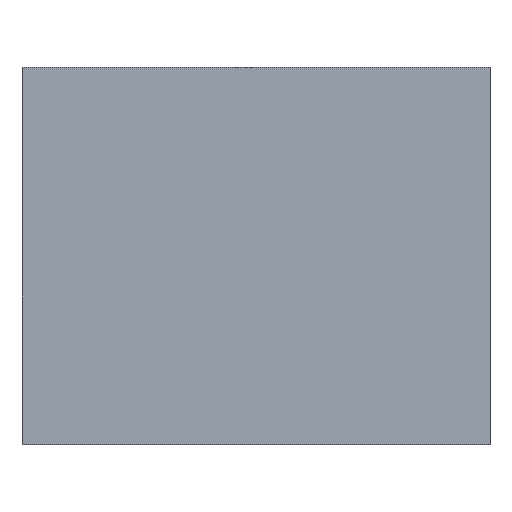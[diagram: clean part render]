
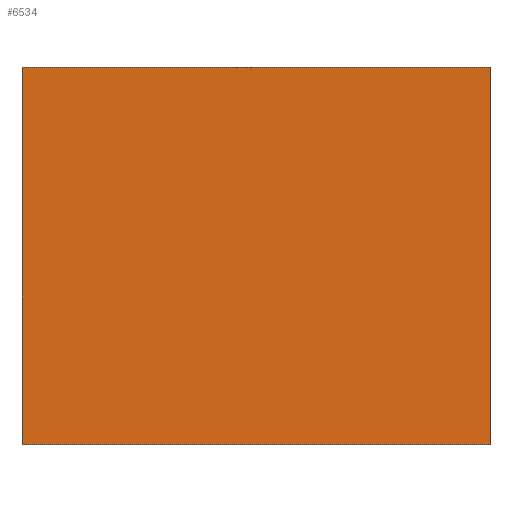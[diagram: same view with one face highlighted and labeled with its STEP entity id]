
A CAD part, top view. The second image highlights one B-rep face of the part: STEP entity #6534.
In plain terms, the highlighted planar face has unit normal (0, 0, 1).
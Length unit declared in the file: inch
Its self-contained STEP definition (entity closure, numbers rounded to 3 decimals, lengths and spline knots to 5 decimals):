
#4437=VECTOR($,#6920,1.);
#4438=VECTOR($,#6921,1.);
#4439=VECTOR($,#6922,1.);
#4440=VECTOR($,#6923,1.);
#5010=LINE($,#7935,#4437);
#5011=LINE($,#7938,#4438);
#5012=LINE($,#7940,#4439);
#5013=LINE($,#7942,#4440);
#5125=PLANE($,#8540);
#5336=VERTEX_POINT($,#7936);
#5337=VERTEX_POINT($,#7937);
#5338=VERTEX_POINT($,#7939);
#5339=VERTEX_POINT($,#7941);
#5696=EDGE_CURVE($,#5336,#5337,#5010,.T.);
#5697=EDGE_CURVE($,#5337,#5338,#5011,.T.);
#5698=EDGE_CURVE($,#5338,#5339,#5012,.T.);
#5699=EDGE_CURVE($,#5339,#5336,#5013,.T.);
#6143=ORIENTED_EDGE($,*,*,#5696,.T.);
#6144=ORIENTED_EDGE($,*,*,#5697,.T.);
#6145=ORIENTED_EDGE($,*,*,#5698,.T.);
#6146=ORIENTED_EDGE($,*,*,#5699,.T.);
#6351=EDGE_LOOP($,(#6143,#6144,#6145,#6146));
#6450=FACE_BOUND($,#6351,.T.);
#6534=ADVANCED_FACE($,(#6450),#5125,.T.);
#6919=DIRECTION($,(0.,0.,1.));
#6920=DIRECTION($,(0.,1.,0.));
#6921=DIRECTION($,(-1.,0.,0.));
#6922=DIRECTION($,(0.,-1.,0.));
#6923=DIRECTION($,(1.,0.,0.));
#7934=CARTESIAN_POINT($,(0.,0.,0.85));
#7935=CARTESIAN_POINT($,(3.84999,0.,0.85));
#7936=CARTESIAN_POINT($,(3.84999,-3.09999,0.85));
#7937=CARTESIAN_POINT($,(3.84999,3.09999,0.85));
#7938=CARTESIAN_POINT($,(0.,3.09999,0.85));
#7939=CARTESIAN_POINT($,(-3.84999,3.09999,0.85));
#7940=CARTESIAN_POINT($,(-3.84999,0.,0.85));
#7941=CARTESIAN_POINT($,(-3.84999,-3.09999,0.85));
#7942=CARTESIAN_POINT($,(0.,-3.09999,0.85));
#8540=AXIS2_PLACEMENT_3D($,#7934,#6919,$);
